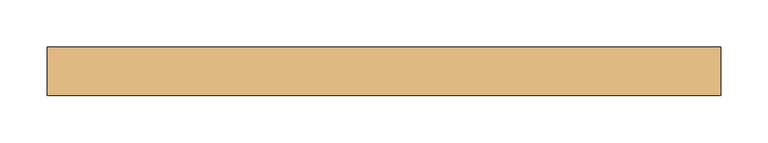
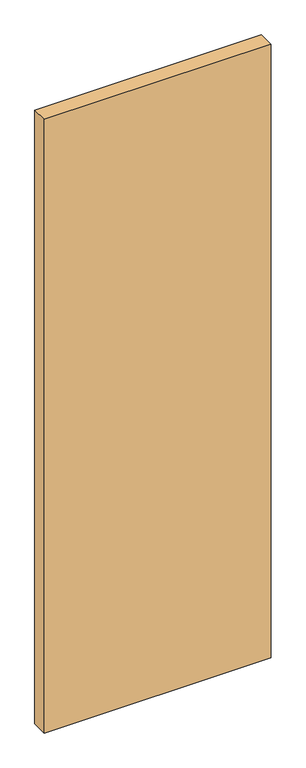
"""IFC4 building model written with IfcOpenShell, lengths in millimetres: door geometry."""

from ifc_helpers import new_model, si_unit, origin, origin_with_axes, place, context, project, spatial, polyline, outline, extrude, source, transform, mapped, element, save


def door_2ab74324(model_context):
    return source(origin(), model_context, "Body", "SweptSolid", [
        extrude(outline(polyline([(355.6, -6.1515625), (355.6, -57.15), (-355.6, -57.15), (-355.6, -6.1515625), (355.6, -6.1515625)])), origin_with_axes(), (0.0, 0.0, 1.0), 2032.0),
    ])


if __name__ == "__main__":
    model = new_model("IFC4")
    model_context = context("Model", 3, world=origin())
    ifc_project = project(units=[si_unit("LENGTHUNIT", "METRE", prefix="MILLI")], contexts=[model_context])
    site = spatial("IfcSite", under=ifc_project)
    building = spatial("IfcBuilding", under=site)
    placement = place(None, origin())
    door_shape = door_2ab74324(model_context)
    element("IfcDoor", 1, ObjectType="Planitar - Single Door_Flush Panel : 2'-4\" x 6'-8\" @45", at=placement, inside=building, context=model_context, shape_type="MappedRepresentation", body=[
        mapped(door_shape, transform((0.0, 0.0, 0.0), x_axis=(1.0, 0.0, 0.0), y_axis=(0.0, 1.0, 0.0), z_axis=(0.0, 0.0, 1.0))),
    ])
    save(model, "model.ifc")
